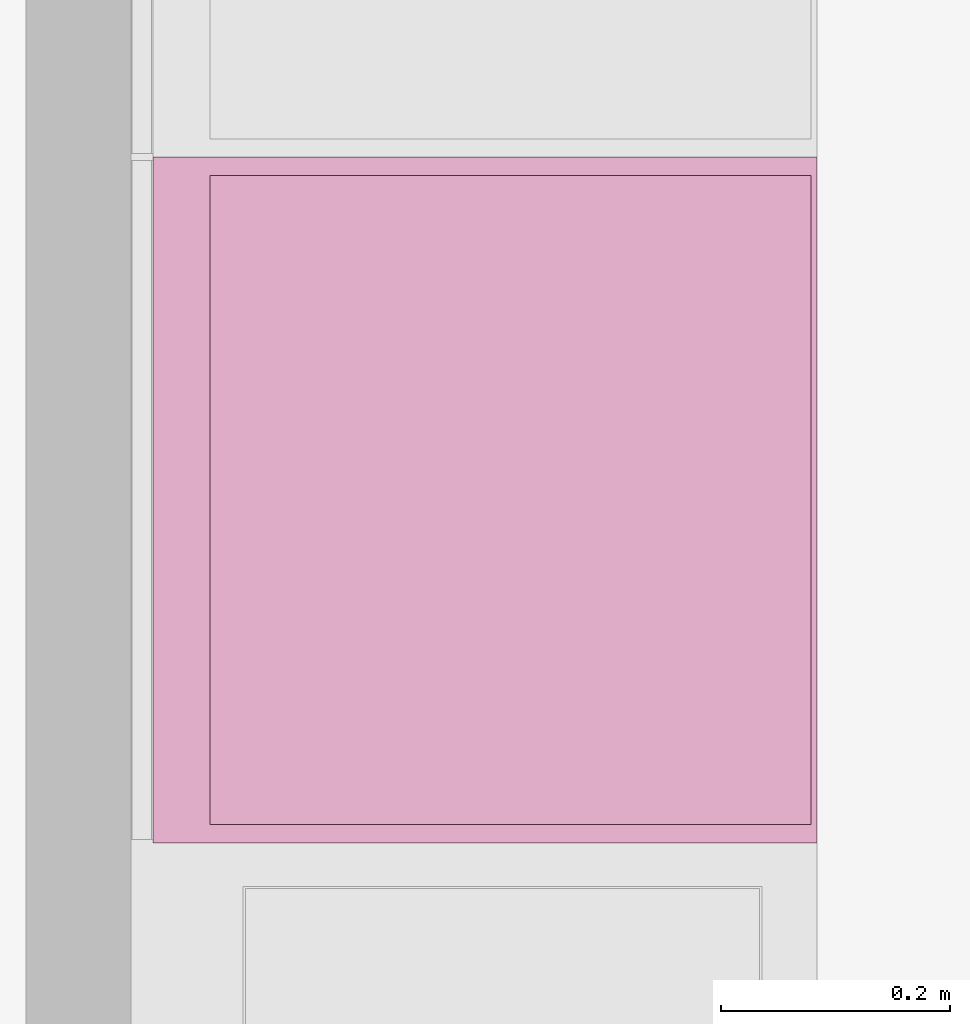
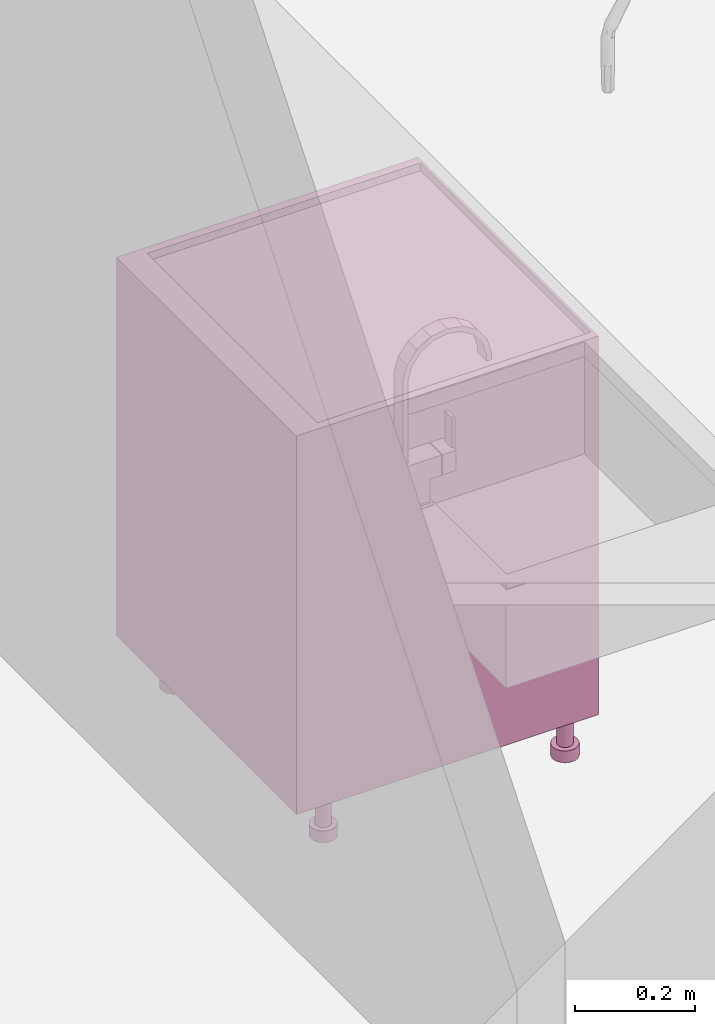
# One storey, part 75 of 125: 1 furnishing.
"""IFC2X3 building model written with IfcOpenShell, lengths in millimetres."""

from ifc_helpers import new_model, entity, si_unit, converted_unit, direction, frame, origin, place, context, subcontext, project, spatial, faceted_brep, source, transform, mapped, material, type_object, type_shapes, element, save


model = new_model("IFC2X3")

# Units and contexts
model_context = context("Model", 3, precision=0.01, world=origin(), true_north=direction((6.123233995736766e-17, 1.0)))
plan_context = context("Plan", 3, precision=0.01, world=origin(), true_north=direction((6.123233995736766e-17, 1.0)))
body_context = subcontext(model_context, "Body", "Model", "MODEL_VIEW")
ifc_project = project(units=[si_unit("LENGTHUNIT", "METRE", prefix="MILLI"), converted_unit("PLANEANGLEUNIT", "DEGREE", entity("IfcPlaneAngleMeasure", 0.017453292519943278), si_unit("PLANEANGLEUNIT", "RADIAN"), dimensions=[0, 0, 0, 0, 0, 0, 0]), si_unit("AREAUNIT", "SQUARE_METRE")], contexts=[model_context, plan_context])

# Site, building, storey, space
site_placement = place(None, origin())
site = spatial("IfcSite", under=ifc_project, at=site_placement, Name="Default", CompositionType="ELEMENT")
building_placement = place(site_placement, origin())
building = spatial("IfcBuilding", under=site, at=building_placement, CompositionType="ELEMENT")
storey_placement = place(building_placement, frame((0.0, 0.0, 3125.0)))
storey = spatial("IfcBuildingStorey", under=building, at=storey_placement, Name="2K", CompositionType="ELEMENT", Elevation=3125.0)
space_placement = place(storey_placement, origin())
space = spatial("IfcSpace", under=storey, at=space_placement, Name="2-2.2", CompositionType="ELEMENT", InteriorOrExteriorSpace="INTERNAL")

# Furnishing
ifc_material = material(Name="<Unnamed>")
furniture_type = type_object("IfcFurnitureType", Name="HR_Casework_Kitchen_Generic_Appliance_v1:Dishwasher", AssemblyPlace="NOTDEFINED", material=ifc_material)
shared_shape = source(origin(), body_context, "Body", "Brep", [
    faceted_brep([(305.7003264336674, -585.7846096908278, -3101.0), (310.6708891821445, -581.9705627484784, -3101.0), (300.70032643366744, -577.1243556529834, -3101.0), (297.32379306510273, -578.5229615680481, -3101.0), (299.91198351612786, -588.1822198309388, -3101.0), (303.59982137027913, -574.8994949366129, -3101.0), (314.4849361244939, -577.0, -3101.0), (305.82468208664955, -572.0, -3101.0), (307.2232880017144, -568.6234666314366, -3101.0), (316.8825462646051, -571.2116570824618, -3101.0), (307.70032643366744, -565.0, -3101.0), (317.7003264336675, -565.0, -3101.0), (307.2232880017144, -561.3765333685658, -3101.0), (316.88254626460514, -558.7883429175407, -3101.0), (305.82468208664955, -558.0, -3101.0), (314.484936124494, -553.0, -3101.0), (303.59982137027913, -555.1005050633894, -3101.0), (310.67088918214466, -548.0294372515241, -3101.0), (300.70032643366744, -552.875644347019, -3101.0), (305.7003264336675, -544.2153903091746, -3101.0), (297.32379306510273, -551.4770384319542, -3101.0), (299.91198351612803, -541.8177801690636, -3101.0), (293.7003264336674, -551.0, -3101.0), (293.70032643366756, -541.0, -3101.0), (290.07685980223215, -551.4770384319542, -3101.0), (287.488669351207, -541.8177801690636, -3101.0), (286.70032643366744, -552.875644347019, -3101.0), (281.7003264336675, -544.2153903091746, -3101.0), (283.80083149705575, -555.1005050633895, -3101.0), (276.7297636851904, -548.029437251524, -3101.0), (281.5759707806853, -558.0, -3101.0), (272.91571674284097, -553.0, -3101.0), (270.51810660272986, -558.7883429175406, -3101.0), (280.1773648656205, -561.3765333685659, -3101.0), (269.7003264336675, -565.0, -3101.0), (279.7003264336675, -565.0, -3101.0), (270.51810660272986, -571.2116570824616, -3101.0), (280.1773648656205, -568.6234666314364, -3101.0), (272.9157167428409, -577.0, -3101.0), (281.57597078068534, -572.0, -3101.0), (276.7297636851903, -581.9705627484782, -3101.0), (283.80083149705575, -574.8994949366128, -3101.0), (281.70032643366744, -585.7846096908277, -3101.0), (286.70032643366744, -577.1243556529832, -3101.0), (287.4886693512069, -588.1822198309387, -3101.0), (290.07685980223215, -578.5229615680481, -3101.0), (293.7003264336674, -589.0, -3101.0), (293.70032643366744, -579.0, -3101.0), (299.91198351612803, -541.8177801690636, -3125.0), (305.7003264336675, -544.2153903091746, -3125.0), (310.67088918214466, -548.0294372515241, -3125.0), (314.484936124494, -553.0, -3125.0), (316.88254626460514, -558.7883429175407, -3125.0), (317.7003264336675, -565.0, -3125.0), (316.8825462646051, -571.2116570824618, -3125.0), (314.4849361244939, -577.0, -3125.0), (310.6708891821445, -581.9705627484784, -3125.0), (305.7003264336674, -585.7846096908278, -3125.0), (299.91198351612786, -588.1822198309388, -3125.0), (293.7003264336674, -589.0, -3125.0), (287.4886693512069, -588.1822198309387, -3125.0), (281.70032643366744, -585.7846096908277, -3125.0), (276.7297636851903, -581.9705627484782, -3125.0), (272.9157167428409, -577.0, -3125.0), (270.51810660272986, -571.2116570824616, -3125.0), (269.7003264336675, -565.0, -3125.0), (270.51810660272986, -558.7883429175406, -3125.0), (272.91571674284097, -553.0, -3125.0), (276.7297636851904, -548.029437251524, -3125.0), (281.7003264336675, -544.2153903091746, -3125.0), (287.488669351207, -541.8177801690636, -3125.0), (293.70032643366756, -541.0, -3125.0), (297.32379306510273, -578.5229615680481, -3025.0), (300.70032643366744, -577.1243556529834, -3025.0), (303.59982137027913, -574.8994949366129, -3025.0), (305.8246820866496, -572.0, -3025.0), (307.2232880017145, -568.6234666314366, -3025.0), (307.70032643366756, -565.0, -3025.0), (307.2232880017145, -561.3765333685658, -3025.0), (305.8246820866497, -558.0, -3025.0), (303.5998213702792, -555.1005050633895, -3025.0), (300.70032643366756, -552.875644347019, -3025.0), (297.32379306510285, -551.4770384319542, -3025.0), (293.70032643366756, -551.0, -3025.0), (290.07685980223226, -551.4770384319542, -3025.0), (286.70032643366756, -552.875644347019, -3025.0), (283.80083149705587, -555.1005050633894, -3025.0), (281.5759707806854, -558.0, -3025.0), (280.1773648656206, -561.3765333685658, -3025.0), (279.70032643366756, -565.0, -3025.0), (280.1773648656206, -568.6234666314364, -3025.0), (281.5759707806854, -572.0, -3025.0), (283.8008314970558, -574.8994949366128, -3025.0), (286.7003264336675, -577.1243556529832, -3025.0), (290.07685980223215, -578.5229615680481, -3025.0), (293.70032643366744, -579.0, -3025.0)], [[[0, 1, 2]], [[0, 2, 3]], [[3, 4, 0]], [[2, 1, 5]], [[6, 5, 1]], [[7, 5, 6]], [[8, 7, 6]], [[8, 6, 9]], [[8, 9, 10]], [[10, 9, 11]], [[12, 10, 11]], [[12, 11, 13]], [[14, 12, 13]], [[14, 13, 15]], [[16, 14, 15]], [[15, 17, 16]], [[17, 18, 16]], [[18, 17, 19]], [[18, 19, 20]], [[21, 20, 19]], [[20, 21, 22]], [[22, 21, 23]], [[23, 24, 22]], [[24, 23, 25]], [[24, 25, 26]], [[27, 26, 25]], [[27, 28, 26]], [[27, 29, 28]], [[30, 28, 29]], [[31, 30, 29]], [[32, 30, 31]], [[33, 30, 32]], [[33, 32, 34]], [[34, 35, 33]], [[36, 35, 34]], [[36, 37, 35]], [[37, 36, 38]], [[39, 37, 38]], [[39, 38, 40]], [[39, 40, 41]], [[40, 42, 41]], [[41, 42, 43]], [[43, 42, 44]], [[44, 45, 43]], [[46, 45, 44]], [[4, 47, 46]], [[45, 46, 47]], [[4, 3, 47]], [[48, 49, 50, 51, 52, 53, 54, 55, 56, 57, 58, 59, 60, 61, 62, 63, 64, 65, 66, 67, 68, 69, 70, 71]], [[64, 36, 34, 65]], [[63, 38, 36, 64]], [[42, 40, 62, 61]], [[63, 62, 40, 38]], [[44, 42, 61, 60]], [[46, 44, 60, 59]], [[58, 4, 46, 59]], [[57, 0, 4, 58]], [[54, 53, 11, 9]], [[1, 0, 57, 56]], [[6, 55, 54, 9]], [[6, 1, 56, 55]], [[52, 13, 11, 53]], [[51, 15, 13, 52]], [[19, 17, 50, 49]], [[51, 50, 17, 15]], [[21, 19, 49, 48]], [[23, 21, 48, 71]], [[27, 69, 68, 29]], [[31, 67, 66, 32]], [[68, 67, 31, 29]], [[32, 66, 65, 34]], [[25, 70, 69, 27]], [[70, 25, 23, 71]], [[72, 73, 74, 75, 76, 77, 78, 79, 80, 81, 82, 83, 84, 85, 86, 87, 88, 89, 90, 91, 92, 93, 94, 95]], [[37, 39, 91, 90]], [[35, 37, 90, 89]], [[43, 45, 94, 93]], [[41, 43, 93, 92]], [[39, 41, 92, 91]], [[47, 95, 94, 45]], [[2, 5, 74, 73]], [[3, 2, 73, 72]], [[8, 10, 77, 76]], [[7, 8, 76, 75]], [[5, 7, 75, 74]], [[3, 72, 95, 47]], [[79, 78, 12, 14]], [[78, 77, 10, 12]], [[80, 16, 18, 81]], [[16, 80, 79, 14]], [[81, 18, 20, 82]], [[22, 83, 82, 20]], [[26, 28, 86, 85]], [[24, 26, 85, 84]], [[33, 35, 89, 88]], [[30, 33, 88, 87]], [[28, 30, 87, 86]], [[24, 84, 83, 22]]]),
    faceted_brep([(-192.29967356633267, -585.7846096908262, -3101.0), (-187.3291108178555, -581.9705627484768, -3101.0), (-197.29967356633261, -577.1243556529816, -3101.0), (-200.67620693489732, -578.5229615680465, -3101.0), (-198.08801648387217, -588.1822198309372, -3101.0), (-194.40017862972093, -574.8994949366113, -3101.0), (-183.51506387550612, -577.0, -3101.0), (-192.17531791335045, -572.0, -3101.0), (-190.77671199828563, -568.6234666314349, -3101.0), (-181.11745373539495, -571.2116570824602, -3101.0), (-190.29967356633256, -565.0, -3101.0), (-180.29967356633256, -565.0, -3101.0), (-190.77671199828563, -561.3765333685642, -3101.0), (-181.11745373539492, -558.788342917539, -3101.0), (-192.17531791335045, -558.0, -3101.0), (-183.515063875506, -553.0, -3101.0), (-194.40017862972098, -555.1005050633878, -3101.0), (-187.3291108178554, -548.0294372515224, -3101.0), (-197.29967356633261, -552.8756443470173, -3101.0), (-192.29967356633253, -544.215390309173, -3101.0), (-200.67620693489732, -551.4770384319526, -3101.0), (-198.08801648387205, -541.8177801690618, -3101.0), (-204.29967356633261, -551.0, -3101.0), (-204.29967356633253, -541.0, -3101.0), (-207.92314019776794, -551.4770384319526, -3101.0), (-210.51133064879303, -541.8177801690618, -3101.0), (-211.29967356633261, -552.8756443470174, -3101.0), (-216.29967356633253, -544.215390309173, -3101.0), (-214.19916850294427, -555.1005050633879, -3101.0), (-221.27023631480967, -548.0294372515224, -3101.0), (-216.42402921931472, -558.0, -3101.0), (-225.08428325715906, -553.0, -3101.0), (-227.48189339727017, -558.788342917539, -3101.0), (-217.8226351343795, -561.3765333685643, -3101.0), (-228.2996735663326, -565.0, -3101.0), (-218.29967356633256, -565.0, -3101.0), (-227.48189339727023, -571.21165708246, -3101.0), (-217.8226351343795, -568.6234666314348, -3101.0), (-225.08428325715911, -577.0, -3101.0), (-216.42402921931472, -572.0, -3101.0), (-221.27023631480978, -581.9705627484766, -3101.0), (-214.19916850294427, -574.8994949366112, -3101.0), (-216.29967356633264, -585.784609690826, -3101.0), (-211.29967356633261, -577.1243556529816, -3101.0), (-210.51133064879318, -588.1822198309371, -3101.0), (-207.9231401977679, -578.5229615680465, -3101.0), (-204.2996735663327, -589.0, -3101.0), (-204.29967356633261, -579.0, -3101.0), (-198.08801648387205, -541.8177801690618, -3125.0), (-192.29967356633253, -544.215390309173, -3125.0), (-187.3291108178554, -548.0294372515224, -3125.0), (-183.515063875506, -553.0, -3125.0), (-181.11745373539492, -558.788342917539, -3125.0), (-180.29967356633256, -565.0, -3125.0), (-181.11745373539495, -571.2116570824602, -3125.0), (-183.51506387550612, -577.0, -3125.0), (-187.3291108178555, -581.9705627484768, -3125.0), (-192.29967356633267, -585.7846096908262, -3125.0), (-198.08801648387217, -588.1822198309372, -3125.0), (-204.2996735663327, -589.0, -3125.0), (-210.51133064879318, -588.1822198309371, -3125.0), (-216.29967356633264, -585.784609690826, -3125.0), (-221.27023631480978, -581.9705627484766, -3125.0), (-225.08428325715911, -577.0, -3125.0), (-227.48189339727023, -571.21165708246, -3125.0), (-228.2996735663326, -565.0, -3125.0), (-227.48189339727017, -558.788342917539, -3125.0), (-225.08428325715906, -553.0, -3125.0), (-221.27023631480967, -548.0294372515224, -3125.0), (-216.29967356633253, -544.215390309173, -3125.0), (-210.51133064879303, -541.8177801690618, -3125.0), (-204.29967356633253, -541.0, -3125.0), (-200.67620693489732, -578.5229615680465, -3025.0), (-197.29967356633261, -577.1243556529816, -3025.0), (-194.40017862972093, -574.8994949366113, -3025.0), (-192.17531791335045, -572.0, -3025.0), (-190.77671199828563, -568.6234666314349, -3025.0), (-190.29967356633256, -565.0, -3025.0), (-190.77671199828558, -561.3765333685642, -3025.0), (-192.1753179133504, -558.0, -3025.0), (-194.40017862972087, -555.1005050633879, -3025.0), (-197.29967356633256, -552.8756443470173, -3025.0), (-200.67620693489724, -551.4770384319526, -3025.0), (-204.29967356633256, -551.0, -3025.0), (-207.92314019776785, -551.4770384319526, -3025.0), (-211.29967356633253, -552.8756443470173, -3025.0), (-214.1991685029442, -555.1005050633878, -3025.0), (-216.4240292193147, -558.0, -3025.0), (-217.8226351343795, -561.3765333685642, -3025.0), (-218.29967356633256, -565.0, -3025.0), (-217.8226351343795, -568.6234666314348, -3025.0), (-216.42402921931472, -572.0, -3025.0), (-214.19916850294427, -574.8994949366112, -3025.0), (-211.2996735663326, -577.1243556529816, -3025.0), (-207.9231401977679, -578.5229615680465, -3025.0), (-204.29967356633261, -579.0, -3025.0)], [[[0, 1, 2]], [[0, 2, 3]], [[3, 4, 0]], [[2, 1, 5]], [[6, 5, 1]], [[7, 5, 6]], [[8, 7, 6]], [[8, 6, 9]], [[8, 9, 10]], [[10, 9, 11]], [[12, 10, 11]], [[12, 11, 13]], [[14, 12, 13]], [[14, 13, 15]], [[16, 14, 15]], [[15, 17, 16]], [[17, 18, 16]], [[18, 17, 19]], [[18, 19, 20]], [[21, 20, 19]], [[20, 21, 22]], [[22, 21, 23]], [[23, 24, 22]], [[24, 23, 25]], [[24, 25, 26]], [[27, 26, 25]], [[27, 28, 26]], [[27, 29, 28]], [[30, 28, 29]], [[31, 30, 29]], [[32, 30, 31]], [[33, 30, 32]], [[33, 32, 34]], [[34, 35, 33]], [[36, 35, 34]], [[36, 37, 35]], [[37, 36, 38]], [[39, 37, 38]], [[39, 38, 40]], [[39, 40, 41]], [[40, 42, 41]], [[41, 42, 43]], [[43, 42, 44]], [[44, 45, 43]], [[46, 45, 44]], [[4, 47, 46]], [[45, 46, 47]], [[4, 3, 47]], [[48, 49, 50, 51, 52, 53, 54, 55, 56, 57, 58, 59, 60, 61, 62, 63, 64, 65, 66, 67, 68, 69, 70, 71]], [[64, 36, 34, 65]], [[63, 38, 36, 64]], [[42, 40, 62, 61]], [[63, 62, 40, 38]], [[44, 42, 61, 60]], [[46, 44, 60, 59]], [[58, 4, 46, 59]], [[57, 0, 4, 58]], [[54, 53, 11, 9]], [[1, 0, 57, 56]], [[6, 55, 54, 9]], [[6, 1, 56, 55]], [[52, 13, 11, 53]], [[51, 15, 13, 52]], [[19, 17, 50, 49]], [[51, 50, 17, 15]], [[21, 19, 49, 48]], [[23, 21, 48, 71]], [[27, 69, 68, 29]], [[31, 67, 66, 32]], [[68, 67, 31, 29]], [[32, 66, 65, 34]], [[25, 70, 69, 27]], [[70, 25, 23, 71]], [[72, 73, 74, 75, 76, 77, 78, 79, 80, 81, 82, 83, 84, 85, 86, 87, 88, 89, 90, 91, 92, 93, 94, 95]], [[37, 39, 91, 90]], [[35, 37, 90, 89]], [[43, 45, 94, 93]], [[41, 43, 93, 92]], [[39, 41, 92, 91]], [[47, 95, 94, 45]], [[2, 5, 74, 73]], [[3, 2, 73, 72]], [[8, 10, 77, 76]], [[7, 8, 76, 75]], [[5, 7, 75, 74]], [[3, 72, 95, 47]], [[79, 78, 12, 14]], [[78, 77, 10, 12]], [[80, 16, 18, 81]], [[16, 80, 79, 14]], [[81, 18, 20, 82]], [[22, 83, 82, 20]], [[26, 28, 86, 85]], [[24, 26, 85, 84]], [[33, 35, 89, 88]], [[30, 33, 88, 87]], [[28, 30, 87, 86]], [[24, 84, 83, 22]]]),
    faceted_brep([(305.70032643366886, -120.78460969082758, -3101.0), (310.670889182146, -116.97056274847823, -3101.0), (300.7003264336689, -112.12435565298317, -3101.0), (297.3237930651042, -113.52296156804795, -3101.0), (299.91198351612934, -123.18221983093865, -3101.0), (303.5998213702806, -109.8994949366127, -3101.0), (314.48493612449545, -112.0, -3101.0), (305.824682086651, -107.0, -3101.0), (307.2232880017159, -103.62346663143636, -3101.0), (316.88254626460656, -106.21165708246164, -3101.0), (307.700326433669, -100.0, -3101.0), (317.700326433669, -100.0, -3101.0), (307.2232880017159, -96.3765333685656, -3101.0), (316.8825462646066, -93.78834291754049, -3101.0), (305.824682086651, -93.0, -3101.0), (314.4849361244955, -88.0, -3101.0), (303.5998213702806, -90.10050506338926, -3101.0), (310.67088918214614, -83.02943725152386, -3101.0), (300.7003264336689, -87.8756443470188, -3101.0), (305.700326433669, -79.21539030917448, -3101.0), (297.3237930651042, -86.477038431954, -3101.0), (299.9119835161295, -76.81778016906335, -3101.0), (293.70032643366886, -86.0, -3101.0), (293.70032643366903, -76.0, -3101.0), (290.0768598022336, -86.47703843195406, -3101.0), (287.4886693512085, -76.81778016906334, -3101.0), (286.7003264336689, -87.87564434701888, -3101.0), (281.700326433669, -79.21539030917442, -3101.0), (283.8008314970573, -90.10050506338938, -3101.0), (276.72976368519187, -83.0294372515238, -3101.0), (281.5759707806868, -93.0, -3101.0), (272.91571674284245, -88.0, -3101.0), (270.51810660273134, -93.78834291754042, -3101.0), (280.177364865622, -96.37653336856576, -3101.0), (269.700326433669, -100.0, -3101.0), (279.700326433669, -100.0, -3101.0), (270.51810660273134, -106.2116570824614, -3101.0), (280.177364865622, -103.62346663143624, -3101.0), (272.9157167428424, -112.0, -3101.0), (281.5759707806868, -107.0, -3101.0), (276.72976368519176, -116.97056274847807, -3101.0), (283.8008314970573, -109.89949493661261, -3101.0), (281.7003264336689, -120.78460969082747, -3101.0), (286.7003264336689, -112.1243556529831, -3101.0), (287.4886693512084, -123.1822198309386, -3101.0), (290.0768598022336, -113.52296156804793, -3101.0), (293.70032643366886, -124.0, -3101.0), (293.7003264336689, -114.0, -3101.0), (299.9119835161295, -76.81778016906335, -3125.0), (305.700326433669, -79.21539030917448, -3125.0), (310.67088918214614, -83.02943725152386, -3125.0), (314.4849361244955, -88.0, -3125.0), (316.8825462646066, -93.78834291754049, -3125.0), (317.700326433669, -100.0, -3125.0), (316.88254626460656, -106.21165708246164, -3125.0), (314.48493612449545, -112.0, -3125.0), (310.670889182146, -116.97056274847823, -3125.0), (305.70032643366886, -120.78460969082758, -3125.0), (299.91198351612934, -123.18221983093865, -3125.0), (293.70032643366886, -124.0, -3125.0), (287.4886693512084, -123.1822198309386, -3125.0), (281.7003264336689, -120.78460969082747, -3125.0), (276.72976368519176, -116.97056274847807, -3125.0), (272.9157167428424, -112.0, -3125.0), (270.51810660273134, -106.2116570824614, -3125.0), (269.700326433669, -100.0, -3125.0), (270.51810660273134, -93.78834291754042, -3125.0), (272.91571674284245, -88.0, -3125.0), (276.72976368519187, -83.0294372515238, -3125.0), (281.700326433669, -79.21539030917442, -3125.0), (287.4886693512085, -76.81778016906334, -3125.0), (293.70032643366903, -76.0, -3125.0), (297.32379306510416, -113.52296156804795, -3025.0), (300.70032643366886, -112.12435565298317, -3025.0), (303.59982137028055, -109.8994949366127, -3025.0), (305.824682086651, -107.0, -3025.0), (307.22328800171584, -103.62346663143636, -3025.0), (307.700326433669, -100.0, -3025.0), (307.2232880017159, -96.3765333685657, -3025.0), (305.82468208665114, -93.0, -3025.0), (303.5998213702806, -90.10050506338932, -3025.0), (300.700326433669, -87.87564434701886, -3025.0), (297.32379306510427, -86.47703843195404, -3025.0), (293.700326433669, -86.0, -3025.0), (290.0768598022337, -86.47703843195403, -3025.0), (286.700326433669, -87.87564434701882, -3025.0), (283.8008314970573, -90.1005050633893, -3025.0), (281.5759707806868, -93.0, -3025.0), (280.177364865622, -96.37653336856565, -3025.0), (279.700326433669, -100.0, -3025.0), (280.177364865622, -103.62346663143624, -3025.0), (281.5759707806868, -107.0, -3025.0), (283.80083149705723, -109.89949493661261, -3025.0), (286.7003264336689, -112.1243556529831, -3025.0), (290.07685980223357, -113.52296156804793, -3025.0), (293.70032643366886, -114.0, -3025.0)], [[[0, 1, 2]], [[0, 2, 3]], [[3, 4, 0]], [[2, 1, 5]], [[6, 5, 1]], [[7, 5, 6]], [[8, 7, 6]], [[8, 6, 9]], [[8, 9, 10]], [[10, 9, 11]], [[12, 10, 11]], [[12, 11, 13]], [[14, 12, 13]], [[14, 13, 15]], [[16, 14, 15]], [[15, 17, 16]], [[17, 18, 16]], [[18, 17, 19]], [[18, 19, 20]], [[21, 20, 19]], [[20, 21, 22]], [[22, 21, 23]], [[23, 24, 22]], [[24, 23, 25]], [[24, 25, 26]], [[27, 26, 25]], [[27, 28, 26]], [[27, 29, 28]], [[30, 28, 29]], [[31, 30, 29]], [[32, 30, 31]], [[33, 30, 32]], [[33, 32, 34]], [[34, 35, 33]], [[36, 35, 34]], [[36, 37, 35]], [[37, 36, 38]], [[39, 37, 38]], [[39, 38, 40]], [[39, 40, 41]], [[40, 42, 41]], [[41, 42, 43]], [[43, 42, 44]], [[44, 45, 43]], [[46, 45, 44]], [[4, 47, 46]], [[45, 46, 47]], [[4, 3, 47]], [[48, 49, 50, 51, 52, 53, 54, 55, 56, 57, 58, 59, 60, 61, 62, 63, 64, 65, 66, 67, 68, 69, 70, 71]], [[64, 36, 34, 65]], [[63, 38, 36, 64]], [[42, 40, 62, 61]], [[63, 62, 40, 38]], [[44, 42, 61, 60]], [[46, 44, 60, 59]], [[58, 4, 46, 59]], [[57, 0, 4, 58]], [[54, 53, 11, 9]], [[1, 0, 57, 56]], [[6, 55, 54, 9]], [[6, 1, 56, 55]], [[52, 13, 11, 53]], [[51, 15, 13, 52]], [[19, 17, 50, 49]], [[51, 50, 17, 15]], [[21, 19, 49, 48]], [[23, 21, 48, 71]], [[27, 69, 68, 29]], [[31, 67, 66, 32]], [[68, 67, 31, 29]], [[32, 66, 65, 34]], [[25, 70, 69, 27]], [[70, 25, 23, 71]], [[72, 73, 74, 75, 76, 77, 78, 79, 80, 81, 82, 83, 84, 85, 86, 87, 88, 89, 90, 91, 92, 93, 94, 95]], [[37, 39, 91, 90]], [[35, 37, 90, 89]], [[43, 45, 94, 93]], [[41, 43, 93, 92]], [[39, 41, 92, 91]], [[47, 95, 94, 45]], [[2, 5, 74, 73]], [[3, 2, 73, 72]], [[8, 10, 77, 76]], [[7, 8, 76, 75]], [[5, 7, 75, 74]], [[3, 72, 95, 47]], [[79, 78, 12, 14]], [[78, 77, 10, 12]], [[80, 16, 18, 81]], [[16, 80, 79, 14]], [[81, 18, 20, 82]], [[22, 83, 82, 20]], [[26, 28, 86, 85]], [[24, 26, 85, 84]], [[33, 35, 89, 88]], [[30, 33, 88, 87]], [[28, 30, 87, 86]], [[24, 84, 83, 22]]]),
    faceted_brep([(-192.299673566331, -120.78460969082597, -3101.0), (-187.3291108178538, -116.97056274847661, -3101.0), (-197.29967356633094, -112.12435565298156, -3101.0), (-200.67620693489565, -113.52296156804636, -3101.0), (-198.0880164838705, -123.18221983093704, -3101.0), (-194.40017862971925, -109.89949493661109, -3101.0), (-183.5150638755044, -112.0, -3101.0), (-192.17531791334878, -107.0, -3101.0), (-190.77671199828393, -103.62346663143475, -3101.0), (-181.11745373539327, -106.21165708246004, -3101.0), (-190.29967356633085, -100.0, -3101.0), (-180.29967356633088, -100.0, -3101.0), (-190.77671199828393, -96.376533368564, -3101.0), (-181.11745373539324, -93.78834291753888, -3101.0), (-192.17531791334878, -93.0, -3101.0), (-183.51506387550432, -88.0, -3101.0), (-194.40017862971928, -90.10050506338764, -3101.0), (-187.32911081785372, -83.02943725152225, -3101.0), (-197.29967356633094, -87.8756443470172, -3101.0), (-192.29967356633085, -79.21539030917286, -3101.0), (-200.67620693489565, -86.4770384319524, -3101.0), (-198.08801648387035, -76.81778016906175, -3101.0), (-204.29967356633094, -86.0, -3101.0), (-204.29967356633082, -76.0, -3101.0), (-207.92314019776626, -86.47703843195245, -3101.0), (-210.51133064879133, -76.81778016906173, -3101.0), (-211.29967356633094, -87.87564434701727, -3101.0), (-216.29967356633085, -79.21539030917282, -3101.0), (-214.19916850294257, -90.10050506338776, -3101.0), (-221.270236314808, -83.0294372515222, -3101.0), (-216.424029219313, -93.0, -3101.0), (-225.08428325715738, -88.0, -3101.0), (-227.4818933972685, -93.78834291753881, -3101.0), (-217.82263513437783, -96.37653336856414, -3101.0), (-228.29967356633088, -100.0, -3101.0), (-218.29967356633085, -100.0, -3101.0), (-227.48189339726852, -106.2116570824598, -3101.0), (-217.82263513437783, -103.62346663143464, -3101.0), (-225.08428325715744, -112.0, -3101.0), (-216.424029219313, -107.0, -3101.0), (-221.27023631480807, -116.97056274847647, -3101.0), (-214.19916850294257, -109.899494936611, -3101.0), (-216.29967356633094, -120.78460969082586, -3101.0), (-211.29967356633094, -112.12435565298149, -3101.0), (-210.51133064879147, -123.18221983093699, -3101.0), (-207.9231401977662, -113.52296156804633, -3101.0), (-204.299673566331, -124.0, -3101.0), (-204.29967356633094, -114.0, -3101.0), (-198.08801648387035, -76.81778016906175, -3125.0), (-192.29967356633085, -79.21539030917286, -3125.0), (-187.32911081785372, -83.02943725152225, -3125.0), (-183.51506387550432, -88.0, -3125.0), (-181.11745373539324, -93.78834291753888, -3125.0), (-180.29967356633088, -100.0, -3125.0), (-181.11745373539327, -106.21165708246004, -3125.0), (-183.5150638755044, -112.0, -3125.0), (-187.3291108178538, -116.97056274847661, -3125.0), (-192.299673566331, -120.78460969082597, -3125.0), (-198.0880164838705, -123.18221983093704, -3125.0), (-204.299673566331, -124.0, -3125.0), (-210.51133064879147, -123.18221983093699, -3125.0), (-216.29967356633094, -120.78460969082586, -3125.0), (-221.27023631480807, -116.97056274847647, -3125.0), (-225.08428325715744, -112.0, -3125.0), (-227.48189339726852, -106.2116570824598, -3125.0), (-228.29967356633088, -100.0, -3125.0), (-227.4818933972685, -93.78834291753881, -3125.0), (-225.08428325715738, -88.0, -3125.0), (-221.270236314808, -83.0294372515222, -3125.0), (-216.29967356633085, -79.21539030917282, -3125.0), (-210.51133064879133, -76.81778016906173, -3125.0), (-204.29967356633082, -76.0, -3125.0), (-200.67620693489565, -113.52296156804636, -3025.0), (-197.29967356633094, -112.12435565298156, -3025.0), (-194.40017862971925, -109.89949493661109, -3025.0), (-192.17531791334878, -107.0, -3025.0), (-190.77671199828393, -103.62346663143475, -3025.0), (-190.29967356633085, -100.0, -3025.0), (-190.7767119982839, -96.3765333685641, -3025.0), (-192.1753179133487, -93.0, -3025.0), (-194.4001786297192, -90.10050506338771, -3025.0), (-197.29967356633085, -87.87564434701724, -3025.0), (-200.67620693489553, -86.47703843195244, -3025.0), (-204.29967356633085, -86.0, -3025.0), (-207.92314019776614, -86.47703843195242, -3025.0), (-211.29967356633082, -87.87564434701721, -3025.0), (-214.1991685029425, -90.10050506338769, -3025.0), (-216.42402921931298, -93.0, -3025.0), (-217.82263513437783, -96.37653336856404, -3025.0), (-218.29967356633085, -100.0, -3025.0), (-217.82263513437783, -103.62346663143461, -3025.0), (-216.424029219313, -107.0, -3025.0), (-214.19916850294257, -109.899494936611, -3025.0), (-211.29967356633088, -112.12435565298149, -3025.0), (-207.9231401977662, -113.52296156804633, -3025.0), (-204.29967356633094, -114.0, -3025.0)], [[[0, 1, 2]], [[0, 2, 3]], [[3, 4, 0]], [[2, 1, 5]], [[6, 5, 1]], [[7, 5, 6]], [[8, 7, 6]], [[8, 6, 9]], [[8, 9, 10]], [[10, 9, 11]], [[12, 10, 11]], [[12, 11, 13]], [[14, 12, 13]], [[14, 13, 15]], [[16, 14, 15]], [[15, 17, 16]], [[17, 18, 16]], [[18, 17, 19]], [[18, 19, 20]], [[21, 20, 19]], [[20, 21, 22]], [[22, 21, 23]], [[23, 24, 22]], [[24, 23, 25]], [[24, 25, 26]], [[27, 26, 25]], [[27, 28, 26]], [[27, 29, 28]], [[30, 28, 29]], [[31, 30, 29]], [[32, 30, 31]], [[33, 30, 32]], [[33, 32, 34]], [[34, 35, 33]], [[36, 35, 34]], [[36, 37, 35]], [[37, 36, 38]], [[39, 37, 38]], [[39, 38, 40]], [[39, 40, 41]], [[40, 42, 41]], [[41, 42, 43]], [[43, 42, 44]], [[44, 45, 43]], [[46, 45, 44]], [[4, 47, 46]], [[45, 46, 47]], [[4, 3, 47]], [[48, 49, 50, 51, 52, 53, 54, 55, 56, 57, 58, 59, 60, 61, 62, 63, 64, 65, 66, 67, 68, 69, 70, 71]], [[64, 36, 34, 65]], [[63, 38, 36, 64]], [[42, 40, 62, 61]], [[63, 62, 40, 38]], [[44, 42, 61, 60]], [[46, 44, 60, 59]], [[58, 4, 46, 59]], [[57, 0, 4, 58]], [[54, 53, 11, 9]], [[1, 0, 57, 56]], [[6, 55, 54, 9]], [[6, 1, 56, 55]], [[52, 13, 11, 53]], [[51, 15, 13, 52]], [[19, 17, 50, 49]], [[51, 50, 17, 15]], [[21, 19, 49, 48]], [[23, 21, 48, 71]], [[27, 69, 68, 29]], [[31, 67, 66, 32]], [[68, 67, 31, 29]], [[32, 66, 65, 34]], [[25, 70, 69, 27]], [[70, 25, 23, 71]], [[72, 73, 74, 75, 76, 77, 78, 79, 80, 81, 82, 83, 84, 85, 86, 87, 88, 89, 90, 91, 92, 93, 94, 95]], [[37, 39, 91, 90]], [[35, 37, 90, 89]], [[43, 45, 94, 93]], [[41, 43, 93, 92]], [[39, 41, 92, 91]], [[47, 95, 94, 45]], [[2, 5, 74, 73]], [[3, 2, 73, 72]], [[8, 10, 77, 76]], [[7, 8, 76, 75]], [[5, 7, 75, 74]], [[3, 72, 95, 47]], [[79, 78, 12, 14]], [[78, 77, 10, 12]], [[80, 16, 18, 81]], [[16, 80, 79, 14]], [[81, 18, 20, 82]], [[22, 83, 82, 20]], [[26, 28, 86, 85]], [[24, 26, 85, 84]], [[33, 35, 89, 88]], [[30, 33, 88, 87]], [[28, 30, 87, 86]], [[24, 84, 83, 22]]]),
    faceted_brep([(328.70032643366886, -19.0, -3009.0), (-239.2996735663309, -19.0, -3009.0), (-239.29967356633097, -595.0, -3009.0), (328.70032643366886, -595.0, -3009.0), (328.70032643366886, -19.0, -3025.0), (328.70032643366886, -595.0, -3025.0), (-239.29967356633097, -595.0, -3025.0), (-239.29967356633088, -19.0, -3025.0)], [[[0, 1, 2, 3]], [[4, 5, 6, 7]], [[1, 0, 4, 7]], [[2, 1, 7, 6]], [[3, 2, 6, 5]], [[0, 3, 5, 4]]]),
    faceted_brep([(-255.29967356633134, -19.0, -2255.0), (-255.2996735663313, -600.0, -2255.0), (344.7003264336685, -600.0, -2255.0), (344.7003264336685, -19.0, -2255.0), (328.70032643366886, -19.0, -2255.0), (328.70032643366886, -595.0, -2255.0), (-239.2996735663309, -595.0, -2255.0), (-239.2996735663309, -19.0, -2255.0), (-255.29967356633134, -19.0, -3025.0), (-239.2996735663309, -19.0, -3025.0), (-239.29967356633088, -595.0, -3025.0), (328.70032643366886, -595.0, -3025.0), (328.70032643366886, -19.0, -3025.0), (344.7003264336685, -19.0, -3025.0), (344.7003264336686, -600.0, -3025.0), (-255.2996735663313, -600.0, -3025.0)], [[[0, 1, 2, 3, 4, 5, 6, 7]], [[8, 9, 10, 11, 12, 13, 14, 15]], [[1, 0, 8, 15]], [[0, 7, 9, 8]], [[7, 6, 10, 9]], [[5, 4, 12, 11]], [[4, 3, 13, 12]], [[3, 2, 14, 13]], [[2, 1, 15, 14]], [[6, 5, 11, 10]]]),
    faceted_brep([(328.70032643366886, -69.0, -2255.0), (328.70032643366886, -19.0, -2255.0), (-239.29967356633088, -19.0, -2255.0), (-239.29967356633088, -69.0, -2255.0), (328.70032643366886, -69.0, -2271.0), (-239.29967356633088, -69.0, -2271.0), (-239.29967356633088, -19.0, -2271.0), (328.70032643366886, -19.0, -2271.0)], [[[0, 1, 2, 3]], [[4, 5, 6, 7]], [[0, 3, 5, 4]], [[3, 2, 6, 5]], [[2, 1, 7, 6]], [[1, 0, 4, 7]]]),
    faceted_brep([(328.7003264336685, -19.0, -2271.0), (-239.29967356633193, -19.0, -2271.0), (-239.2996735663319, -595.0, -2271.0), (328.7003264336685, -595.0, -2271.0), (328.7003264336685, -19.0, -3009.0), (328.7003264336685, -595.0, -3009.0), (-239.2996735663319, -595.0, -3009.0), (-239.2996735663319, -19.0, -3009.0)], [[[0, 1, 2, 3]], [[4, 5, 6, 7]], [[1, 0, 4, 7]], [[2, 1, 7, 6]], [[3, 2, 6, 5]], [[0, 3, 5, 4]]]),
])
type_shapes(furniture_type, [shared_shape])
furnishing_placement = place(space_placement, frame((7250.0, 9793.299673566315, 3125.0), z_axis=(0.0, 0.0, 1.0), x_axis=(0.0, 1.0, 0.0)))
element("IfcFurnishingElement", 1, at=furnishing_placement, inside=space, type_object=furniture_type, material=ifc_material, Name="HR_Casework_Kitchen_Generic_Appliance_v1:Dishwasher", ObjectType="HR_Casework_Kitchen_Generic_Appliance_v1:Dishwasher", context=body_context, shape_type="MappedRepresentation", body=[
    mapped(shared_shape, transform((0.0, 0.0, 0.0), scale=1.0)),
])

save(model, "model.ifc")
